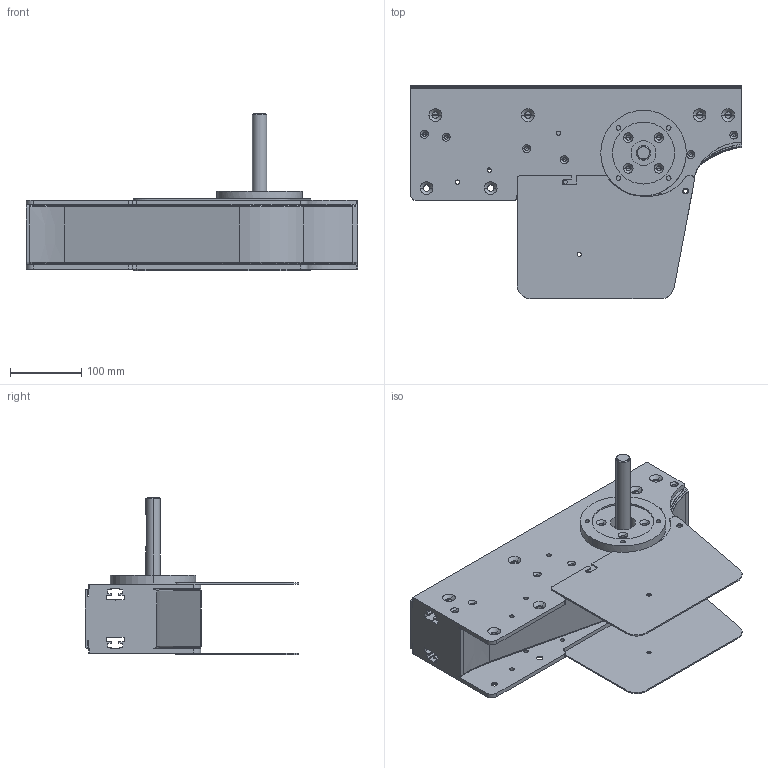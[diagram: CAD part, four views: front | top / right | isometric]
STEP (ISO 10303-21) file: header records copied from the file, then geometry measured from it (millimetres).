
FILE_DESCRIPTION (( 'STEP AP214' ), '1' );
FILE_NAME ('FMID DD 0R.step', '2017-04-07T11:08:31', ( '' ), ( '' ), 'SwSTEP 2.0', 'SolidWorks 2016', '' );
FILE_SCHEMA (( 'AUTOMOTIVE_DESIGN' ));
Length unit declared in the file: millimetre
Products named in the file (1): FMID DD 0R
Bounding box: 465 x 300.2 x 220.5 mm (x, y, z)
Volume: 5834704.2 mm3; surface area: 552823.6 mm2
Topology: 1 solids, 3 shells, 509 faces, 1313 edges, 795 vertices
Faces by surface type: cylinder 216, plane 141, cone 122, bspline 30
Entity records: 19319 total; most frequent: CARTESIAN_POINT 3174, DIRECTION 2795, ORIENTED_EDGE 2538, EDGE_CURVE 1269, AXIS2_PLACEMENT_3D 1063, VERTEX_POINT 795, VECTOR 669, LINE 669
